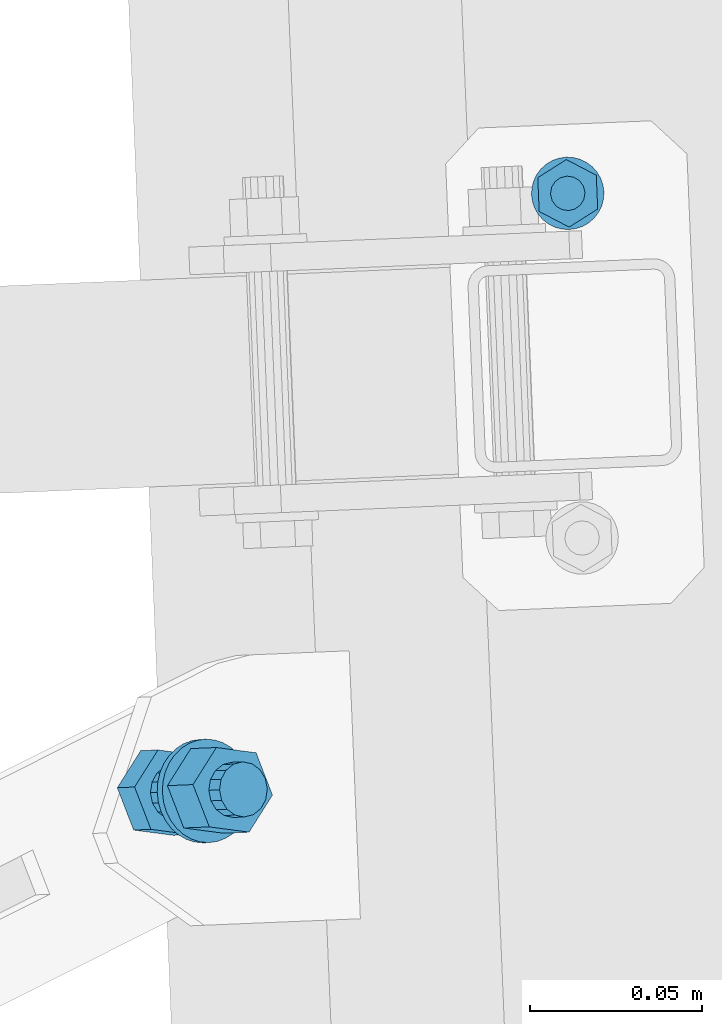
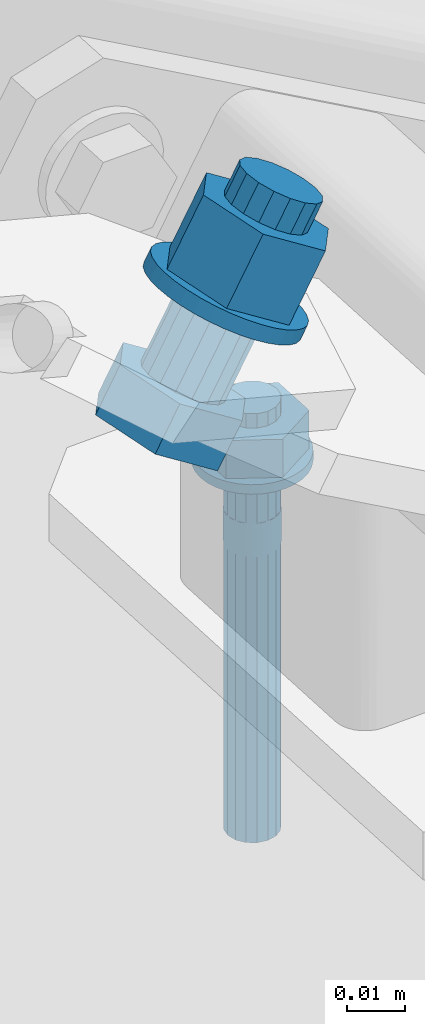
# One storey, part 220 of 288: 2 mechanical fasteners.
"""IFC2X3 building model written with IfcOpenShell, lengths in millimetres."""

import ifcopenshell
import ifcopenshell.guid

model = None  # the IFC model being written
_history = None  # IfcOwnerHistory: only IFC2X3 demands one
_inside = {}  # id of a spatial element -> (the spatial element, [elements in it])
_under = {}  # id of a project, library or spatial element -> (it, [spatial elements below it])
_declared = {}  # id of a project -> (the project, [libraries it declares])
_typed = {}  # id of a type object -> (the type object, [elements of that type])
_made_of = {}  # id of a material, layer set ... -> (it, [elements and type objects made of it])


def new_model(schema):
    """Start an empty IFC model of exactly this schema.

    Asked for "IFC4X3", IfcOpenShell would pick the latest addendum, in which some entities
    have other attributes; the version numbers below select the first issue.
    IFC2X3 requires an IfcOwnerHistory on every rooted entity: one is made here for all.
    """
    global model, _history
    if schema == "IFC4X3":
        model = ifcopenshell.file(schema_version=(4, 3, 0, 0))
    else:
        model = ifcopenshell.file(schema=schema)
    _inside.clear()
    _under.clear()
    _declared.clear()
    _typed.clear()
    _made_of.clear()
    _history = None
    if model.schema == "IFC2X3":
        org = make("IfcOrganization", Name="unknown")
        user = make(
            "IfcPersonAndOrganization",
            ThePerson=make("IfcPerson", FamilyName="unknown"),
            TheOrganization=org,
        )
        app = make(
            "IfcApplication",
            ApplicationDeveloper=org,
            Version="unknown",
            ApplicationFullName="unknown",
            ApplicationIdentifier="unknown",
        )
        _history = make(
            "IfcOwnerHistory",
            OwningUser=user,
            OwningApplication=app,
            ChangeAction="ADDED",
            CreationDate=0,
        )
    return model


def make(cls, **values):
    """One entity of the class cls with the attributes given. An attribute that is None is left unset."""
    return model.create_entity(
        cls, **{name: value for name, value in values.items() if value is not None}
    )


def entity(cls, *values):
    """Any entity or typed value of the class cls, its attributes in the order of the schema. None: left unset."""
    e = model.create_entity(cls)
    for i, value in enumerate(values):
        if value is not None:
            e[i] = value
    return e


def rooted(cls, **values):
    """An entity with a GlobalId (a new one), such as an element, a storey or a relation."""
    return make(cls, GlobalId=ifcopenshell.guid.new(), OwnerHistory=_history, **values)


def si_unit(unit_type, name, prefix=None):
    """IfcSIUnit, for example si_unit("LENGTHUNIT", "METRE", prefix="MILLI")."""
    return make("IfcSIUnit", UnitType=unit_type, Prefix=prefix, Name=name)


def converted_unit(unit_type, name, factor, base, dimensions=None, offset=None):
    """IfcConversionBasedUnit, such as the inch: factor (a typed value) times the base unit."""
    return make(
        "IfcConversionBasedUnit"
        if offset is None
        else "IfcConversionBasedUnitWithOffset",
        ConversionOffset=offset,
        Dimensions=None
        if dimensions is None
        else entity("IfcDimensionalExponents", *dimensions),
        UnitType=unit_type,
        Name=name,
        ConversionFactor=make(
            "IfcMeasureWithUnit", ValueComponent=factor, UnitComponent=base
        ),
    )


def assignment(units):
    """IfcUnitAssignment: the units of a project."""
    return None if units is None else make("IfcUnitAssignment", Units=units)


def point(xyz):
    """IfcCartesianPoint."""
    return None if xyz is None else make("IfcCartesianPoint", Coordinates=xyz)


def direction(xyz):
    """IfcDirection."""
    return None if xyz is None else make("IfcDirection", DirectionRatios=xyz)


def frame(location, z_axis=None, x_axis=None):
    """IfcAxis2Placement3D, a coordinate frame: its origin and axes. An axis left out is left unset."""
    return make(
        "IfcAxis2Placement3D",
        Location=point(location),
        Axis=direction(z_axis),
        RefDirection=direction(x_axis),
    )


def origin_with_axes():
    """The frame at (0, 0, 0) with the z axis (0, 0, 1) and the x axis (1, 0, 0) written out."""
    return frame((0.0, 0.0, 0.0), z_axis=(0.0, 0.0, 1.0), x_axis=(1.0, 0.0, 0.0))


def place(relative_to, where):
    """IfcLocalPlacement: puts the frame where relative to a parent placement (None: the world)."""
    return make(
        "IfcLocalPlacement", PlacementRelTo=relative_to, RelativePlacement=where
    )


def context(
    kind, dimensions, precision=None, world=None, true_north=None, identifier=None
):
    """IfcGeometricRepresentationContext, for example the 3D "Model" context."""
    return make(
        "IfcGeometricRepresentationContext",
        ContextIdentifier=identifier,
        ContextType=kind,
        CoordinateSpaceDimension=dimensions,
        Precision=precision,
        WorldCoordinateSystem=world,
        TrueNorth=true_north,
    )


def project(units=None, contexts=None):
    """IfcProject with its units and contexts."""
    return rooted(
        "IfcProject",
        Name="project",
        RepresentationContexts=contexts,
        UnitsInContext=assignment(units),
    )


def spatial(cls, under=None, at=None, **own):
    """A site, building, storey or space (cls), placed at a placement, below another one or the project."""
    s = rooted(cls, ObjectPlacement=at, **own)
    if under is not None:
        _under.setdefault(under.id(), (under, []))[1].append(s)
    return s


def faces_of(points, faces, orient=None, outer=None):
    """IfcFace entities. A face is a list of loops; a loop is a list of indices into points, from 0.

    orient and outer hold one flag for each loop. By default every Orientation is true, the
    first loop of a face is its IfcFaceOuterBound and the others are IfcFaceBound.
    """
    made = []
    for i, loops in enumerate(faces):
        bounds = []
        for j, loop in enumerate(loops):
            is_outer = j == 0 if outer is None else outer[i][j]
            bounds.append(
                make(
                    "IfcFaceOuterBound" if is_outer else "IfcFaceBound",
                    Bound=make("IfcPolyLoop", Polygon=[points[k] for k in loop]),
                    Orientation=True if orient is None else orient[i][j],
                )
            )
        made.append(make("IfcFace", Bounds=bounds))
    return made


def faceted_brep(points, faces, orient=None, outer=None, voids=None):
    """IfcFacetedBrep: a solid bounded by flat faces; with voids (closed shells), ...WithVoids."""
    shared = [point(p) for p in points]
    hull = make("IfcClosedShell", CfsFaces=faces_of(shared, faces, orient, outer))
    if voids is None:
        return make("IfcFacetedBrep", Outer=hull)
    return make(
        "IfcFacetedBrepWithVoids",
        Outer=hull,
        Voids=[
            make(cls, CfsFaces=faces_of(shared, fs, o, b)) for cls, fs, o, b in voids
        ],
    )


def shape(context_of_items, identifier, shape_type, items):
    """IfcShapeRepresentation: the items that make up one representation, for example the "Body"."""
    return make(
        "IfcShapeRepresentation",
        ContextOfItems=context_of_items,
        RepresentationIdentifier=identifier,
        RepresentationType=shape_type,
        Items=items,
    )


def made_of(thing, what):
    """Note that an element or type object is made of a material, layer set ...; save() writes the relation."""
    if what is not None:
        _made_of.setdefault(what.id(), (what, []))[1].append(thing)
    return thing


def element(
    cls,
    number,
    at=None,
    inside=None,
    cuts=None,
    type_object=None,
    material=None,
    context=None,
    identifier="Body",
    shape_type=None,
    held_by="IfcProductDefinitionShape",
    body=None,
    shapes=None,
    **own,
):
    """One element of the class cls, such as IfcWall. Its Tag is "e" and its number.

    at: its placement. inside: the storey or other place that contains it. cuts: it is an
    opening in that element (IfcRelVoidsElement). A single representation is given by context,
    identifier, shape_type and body (its items); several are given by shapes. held_by: the class
    of the entity that holds the representations. save() writes the other relations.
    """
    e = rooted(cls, Tag="e%d" % number, ObjectPlacement=at, **own)
    if body is not None:
        shapes = [shape(context, identifier, shape_type, body)]
    if shapes is not None:
        e.Representation = make(held_by, Representations=shapes)
    if inside is not None:
        _inside.setdefault(inside.id(), (inside, []))[1].append(e)
    if cuts is not None:
        rooted(
            "IfcRelVoidsElement", RelatingBuildingElement=cuts, RelatedOpeningElement=e
        )
    if type_object is not None:
        _typed.setdefault(type_object.id(), (type_object, []))[1].append(e)
    return made_of(e, material)


def aggregate(whole, parts):
    """IfcRelAggregates: a whole, such as a stair, and the parts it consists of."""
    return rooted("IfcRelAggregates", RelatingObject=whole, RelatedObjects=parts)


def save(model, path):
    """Write the relations noted so far, then the file.

    IfcRelAggregates (storeys below a building ...), IfcRelContainedInSpatialStructure (elements
    in a storey), IfcRelDefinesByType, IfcRelAssociatesMaterial and IfcRelDeclares: one each for
    every whole, place, type object, material and project.
    """
    for whole, parts in _under.values():
        aggregate(whole, parts)
    for where, things in _inside.values():
        rooted(
            "IfcRelContainedInSpatialStructure",
            RelatedElements=things,
            RelatingStructure=where,
        )
    for kind, things in _typed.values():
        rooted("IfcRelDefinesByType", RelatedObjects=things, RelatingType=kind)
    for what, things in _made_of.values():
        rooted("IfcRelAssociatesMaterial", RelatedObjects=things, RelatingMaterial=what)
    for by, libraries in _declared.values():
        rooted("IfcRelDeclares", RelatingContext=by, RelatedDefinitions=libraries)
    model.write(path)


model = new_model("IFC2X3")

# Units and contexts
model_context = context("Model", 3, precision=1e-09, world=origin_with_axes())
ifc_project = project(units=[si_unit("LENGTHUNIT", "METRE", prefix="MILLI"), si_unit("AREAUNIT", "SQUARE_METRE"), si_unit("VOLUMEUNIT", "CUBIC_METRE"), converted_unit("PLANEANGLEUNIT", "DEGREE", entity("IfcPlaneAngleMeasure", 0.01745329), si_unit("PLANEANGLEUNIT", "RADIAN"), dimensions=[0, 0, 0, 0, 0, 0, 0])], contexts=[model_context])

# Site, building, storey
site_placement = place(None, origin_with_axes())
site = spatial("IfcSite", under=ifc_project, at=site_placement, Name="Remont ?wietlik?w nad MC w NCPP w Opolu", CompositionType="ELEMENT")
building_placement = place(site_placement, origin_with_axes())
building = spatial("IfcBuilding", under=site, at=building_placement, Name="Konstrukcja 1", CompositionType="ELEMENT")
storey_placement = place(building_placement, origin_with_axes())
storey = spatial("IfcBuildingStorey", under=building, at=storey_placement, Name="Default Storey", CompositionType="ELEMENT", Elevation=0.0)

# Mechanical fasteners
mechanical_fastener_1_placement = place(None, origin_with_axes())
element("IfcMechanicalFastener", 1, at=mechanical_fastener_1_placement, inside=storey, ObjectType="Anchor_Bolt", NominalDiameter=10.0, NominalLength=90.0, context=model_context, shape_type="Brep", body=[
    faceted_brep([(1683.080872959, 5127.250391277, 12.000000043), (1683.080872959, 5127.250391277, 10.000000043), (1682.793931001, 5129.288652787, 10.000000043), (1682.793931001, 5129.288652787, 12.000000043), (1682.114857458, 5131.231770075, 10.000000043), (1682.114857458, 5131.231770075, 12.000000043), (1681.069748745, 5133.005070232, 10.000000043), (1681.069748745, 5133.005070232, 12.000000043), (1679.698767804, 5134.540406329, 10.000000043), (1679.698767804, 5134.540406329, 12.000000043), (1678.054600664, 5135.778776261, 10.000000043), (1678.054600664, 5135.778776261, 12.000000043), (1676.200431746, 5136.672590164, 10.000000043), (1676.200431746, 5136.672590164, 12.000000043), (1674.207515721, 5137.187499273, 10.000000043), (1674.207515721, 5137.187499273, 12.000000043), (1672.152439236, 5137.303715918, 10.000000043), (1672.152439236, 5137.303715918, 12.000000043), (1670.114177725, 5137.01677396, 10.000000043), (1670.114177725, 5137.01677396, 12.000000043), (1668.171060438, 5136.337700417, 10.000000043), (1668.171060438, 5136.337700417, 12.000000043), (1666.39776028, 5135.292591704, 10.000000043), (1666.39776028, 5135.292591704, 12.000000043), (1664.862424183, 5133.921610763, 10.000000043), (1664.862424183, 5133.921610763, 12.000000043), (1663.624054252, 5132.277443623, 10.000000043), (1663.624054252, 5132.277443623, 12.000000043), (1662.730240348, 5130.423274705, 10.000000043), (1662.730240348, 5130.423274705, 12.000000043), (1662.21533124, 5128.43035868, 10.000000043), (1662.21533124, 5128.43035868, 12.000000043), (1662.099114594, 5126.375282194, 10.000000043), (1662.099114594, 5126.375282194, 12.000000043), (1662.386056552, 5124.337020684, 10.000000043), (1662.386056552, 5124.337020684, 12.000000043), (1663.065130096, 5122.393903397, 10.000000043), (1663.065130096, 5122.393903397, 12.000000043), (1664.110238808, 5120.620603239, 10.000000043), (1664.110238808, 5120.620603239, 12.000000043), (1665.481219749, 5119.085267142, 10.000000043), (1665.481219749, 5119.085267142, 12.000000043), (1667.125386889, 5117.846897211, 10.000000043), (1667.125386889, 5117.846897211, 12.000000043), (1668.979555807, 5116.953083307, 10.000000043), (1668.979555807, 5116.953083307, 12.000000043), (1670.972471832, 5116.438174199, 10.000000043), (1670.972471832, 5116.438174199, 12.000000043), (1673.027548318, 5116.321957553, 10.000000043), (1673.027548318, 5116.321957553, 12.000000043), (1675.065809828, 5116.608899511, 10.000000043), (1675.065809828, 5116.608899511, 12.000000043), (1677.008927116, 5117.287973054, 10.000000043), (1677.008927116, 5117.287973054, 12.000000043), (1678.782227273, 5118.333081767, 10.000000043), (1678.782227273, 5118.333081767, 12.000000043), (1680.31756337, 5119.704062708, 10.000000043), (1680.31756337, 5119.704062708, 12.000000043), (1681.555933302, 5121.348229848, 10.000000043), (1681.555933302, 5121.348229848, 12.000000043), (1682.449747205, 5123.202398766, 10.000000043), (1682.449747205, 5123.202398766, 12.000000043), (1682.964656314, 5125.195314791, 10.000000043), (1682.964656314, 5125.195314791, 12.000000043)], [[[0, 1, 2, 3]], [[3, 2, 4, 5]], [[5, 4, 6, 7]], [[7, 6, 8, 9]], [[9, 8, 10, 11]], [[11, 10, 12, 13]], [[13, 12, 14, 15]], [[15, 14, 16, 17]], [[17, 16, 18, 19]], [[19, 18, 20, 21]], [[21, 20, 22, 23]], [[23, 22, 24, 25]], [[25, 24, 26, 27]], [[27, 26, 28, 29]], [[29, 28, 30, 31]], [[31, 30, 32, 33]], [[33, 32, 34, 35]], [[35, 34, 36, 37]], [[37, 36, 38, 39]], [[39, 38, 40, 41]], [[41, 40, 42, 43]], [[43, 42, 44, 45]], [[45, 44, 46, 47]], [[47, 46, 48, 49]], [[49, 48, 50, 51]], [[51, 50, 52, 53]], [[53, 52, 54, 55]], [[55, 54, 56, 57]], [[57, 56, 58, 59]], [[59, 58, 60, 61]], [[61, 60, 62, 63]], [[63, 62, 1, 0]], [[0, 3, 5, 7, 9, 11, 13, 15, 17, 19, 21, 23, 25, 27, 29, 31, 33, 35, 37, 39, 41, 43, 45, 47, 49, 51, 53, 55, 57, 59, 61, 63]], [[1, 62, 60, 58, 56, 54, 52, 50, 48, 46, 44, 42, 40, 38, 36, 34, 32, 30, 28, 26, 24, 22, 20, 18, 16, 14, 12, 10, 8, 6, 4, 2]]]),
    faceted_brep([(1663.906124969, 5131.354909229, 12.000000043), (1663.906124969, 5131.354909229, 20.000000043), (1672.181609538, 5136.604323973, 20.000000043), (1672.181609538, 5136.604323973, 12.000000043), (1680.865478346, 5132.062251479, 20.000000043), (1680.865478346, 5132.062251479, 12.000000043), (1681.273862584, 5122.270764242, 20.000000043), (1681.273862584, 5122.270764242, 12.000000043), (1672.998378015, 5117.021349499, 20.000000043), (1672.998378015, 5117.021349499, 12.000000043), (1664.314509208, 5121.563421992, 20.000000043), (1664.314509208, 5121.563421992, 12.000000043)], [[[0, 1, 2, 3]], [[3, 2, 4, 5]], [[5, 4, 6, 7]], [[7, 6, 8, 9]], [[9, 8, 10, 11]], [[11, 10, 1, 0]], [[4, 2, 1, 10, 8, 6]], [[0, 3, 5, 7, 9, 11]]]),
    faceted_brep([(1677.58565053, 5127.021196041, 23.000000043), (1677.58565053, 5127.021196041, 20.000000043), (1677.125643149, 5128.917090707, 20.000000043), (1677.125643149, 5128.917090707, 23.000000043), (1675.975124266, 5130.49263178, 20.000000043), (1675.975124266, 5130.49263178, 23.000000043), (1674.309249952, 5131.507957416, 20.000000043), (1674.309249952, 5131.507957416, 23.000000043), (1672.381634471, 5131.808493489, 20.000000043), (1672.381634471, 5131.808493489, 23.000000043), (1670.485739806, 5131.348486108, 20.000000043), (1670.485739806, 5131.348486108, 23.000000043), (1668.910198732, 5130.197967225, 20.000000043), (1668.910198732, 5130.197967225, 23.000000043), (1667.894873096, 5128.532092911, 20.000000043), (1667.894873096, 5128.532092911, 23.000000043), (1667.594337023, 5126.60447743, 20.000000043), (1667.594337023, 5126.60447743, 23.000000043), (1668.054344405, 5124.708582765, 20.000000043), (1668.054344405, 5124.708582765, 23.000000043), (1669.204863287, 5123.133041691, 20.000000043), (1669.204863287, 5123.133041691, 23.000000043), (1670.870737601, 5122.117716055, 20.000000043), (1670.870737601, 5122.117716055, 23.000000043), (1672.798353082, 5121.817179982, 20.000000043), (1672.798353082, 5121.817179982, 23.000000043), (1674.694247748, 5122.277187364, 20.000000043), (1674.694247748, 5122.277187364, 23.000000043), (1676.269788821, 5123.427706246, 20.000000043), (1676.269788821, 5123.427706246, 23.000000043), (1677.285114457, 5125.09358056, 20.000000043), (1677.285114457, 5125.09358056, 23.000000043)], [[[0, 1, 2, 3]], [[3, 2, 4, 5]], [[5, 4, 6, 7]], [[7, 6, 8, 9]], [[9, 8, 10, 11]], [[11, 10, 12, 13]], [[13, 12, 14, 15]], [[15, 14, 16, 17]], [[17, 16, 18, 19]], [[19, 18, 20, 21]], [[21, 20, 22, 23]], [[23, 22, 24, 25]], [[25, 24, 26, 27]], [[27, 26, 28, 29]], [[29, 28, 30, 31]], [[31, 30, 1, 0]], [[0, 3, 5, 7, 9, 11, 13, 15, 17, 19, 21, 23, 25, 27, 29, 31]], [[1, 30, 28, 26, 24, 22, 20, 18, 16, 14, 12, 10, 8, 6, 4, 2]]]),
    faceted_brep([(1677.58565053, 5127.021196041, 10.000000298), (1677.58565053, 5127.021196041, 4.3e-08), (1677.125643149, 5128.917090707, 4.3e-08), (1677.125643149, 5128.917090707, 10.000000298), (1675.975124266, 5130.49263178, 4.3e-08), (1675.975124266, 5130.49263178, 10.000000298), (1674.309249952, 5131.507957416, 4.3e-08), (1674.309249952, 5131.507957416, 10.000000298), (1672.381634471, 5131.808493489, 4.3e-08), (1672.381634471, 5131.808493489, 10.000000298), (1670.485739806, 5131.348486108, 4.3e-08), (1670.485739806, 5131.348486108, 10.000000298), (1668.910198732, 5130.197967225, 4.3e-08), (1668.910198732, 5130.197967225, 10.000000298), (1667.894873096, 5128.532092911, 4.3e-08), (1667.894873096, 5128.532092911, 10.000000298), (1667.594337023, 5126.60447743, 4.3e-08), (1667.594337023, 5126.60447743, 10.000000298), (1668.054344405, 5124.708582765, 4.3e-08), (1668.054344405, 5124.708582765, 10.000000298), (1669.204863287, 5123.133041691, 4.3e-08), (1669.204863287, 5123.133041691, 10.000000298), (1670.870737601, 5122.117716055, 4.3e-08), (1670.870737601, 5122.117716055, 10.000000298), (1672.798353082, 5121.817179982, 4.3e-08), (1672.798353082, 5121.817179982, 10.000000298), (1674.694247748, 5122.277187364, 4.3e-08), (1674.694247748, 5122.277187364, 10.000000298), (1676.269788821, 5123.427706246, 4.3e-08), (1676.269788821, 5123.427706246, 10.000000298), (1677.285114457, 5125.09358056, 4.3e-08), (1677.285114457, 5125.09358056, 10.000000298)], [[[0, 1, 2, 3]], [[3, 2, 4, 5]], [[5, 4, 6, 7]], [[7, 6, 8, 9]], [[9, 8, 10, 11]], [[11, 10, 12, 13]], [[13, 12, 14, 15]], [[15, 14, 16, 17]], [[17, 16, 18, 19]], [[19, 18, 20, 21]], [[21, 20, 22, 23]], [[23, 22, 24, 25]], [[25, 24, 26, 27]], [[27, 26, 28, 29]], [[29, 28, 30, 31]], [[31, 30, 1, 0]], [[0, 3, 5, 7, 9, 11, 13, 15, 17, 19, 21, 23, 25, 27, 29, 31]], [[1, 30, 28, 26, 24, 22, 20, 18, 16, 14, 12, 10, 8, 6, 4, 2]]]),
    faceted_brep([(1677.58565053, 5127.021196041, -2.13e-07), (1677.58565053, 5127.021196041, -6.999999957), (1677.449011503, 5127.99179676, -6.999999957), (1677.449011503, 5127.99179676, -2.13e-07), (1677.125643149, 5128.917090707, -6.999999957), (1677.125643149, 5128.917090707, -2.13e-07), (1676.627972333, 5129.761519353, -6.999999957), (1676.627972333, 5129.761519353, -2.13e-07), (1675.975124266, 5130.49263178, -6.999999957), (1675.975124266, 5130.49263178, -2.13e-07), (1675.192187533, 5131.082331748, -6.999999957), (1675.192187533, 5131.082331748, -2.13e-07), (1674.309249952, 5131.507957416, -6.999999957), (1674.309249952, 5131.507957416, -2.13e-07), (1673.360242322, 5131.753152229, -6.999999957), (1673.360242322, 5131.753152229, -2.13e-07), (1672.381634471, 5131.808493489, -6.999999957), (1672.381634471, 5131.808493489, -2.13e-07), (1671.411033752, 5131.671854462, -6.999999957), (1671.411033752, 5131.671854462, -2.13e-07), (1670.485739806, 5131.348486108, -6.999999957), (1670.485739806, 5131.348486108, -2.13e-07), (1669.641311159, 5130.850815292, -6.999999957), (1669.641311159, 5130.850815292, -2.13e-07), (1668.910198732, 5130.197967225, -6.999999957), (1668.910198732, 5130.197967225, -2.13e-07), (1668.320498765, 5129.415030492, -6.999999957), (1668.320498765, 5129.415030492, -2.13e-07), (1667.894873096, 5128.532092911, -6.999999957), (1667.894873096, 5128.532092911, -2.13e-07), (1667.649678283, 5127.583085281, -6.999999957), (1667.649678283, 5127.583085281, -2.13e-07), (1667.594337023, 5126.60447743, -6.999999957), (1667.594337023, 5126.60447743, -2.13e-07), (1667.730976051, 5125.633876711, -6.999999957), (1667.730976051, 5125.633876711, -2.13e-07), (1668.054344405, 5124.708582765, -6.999999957), (1668.054344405, 5124.708582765, -2.13e-07), (1668.55201522, 5123.864154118, -6.999999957), (1668.55201522, 5123.864154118, -2.13e-07), (1669.204863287, 5123.133041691, -6.999999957), (1669.204863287, 5123.133041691, -2.13e-07), (1669.987800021, 5122.543341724, -6.999999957), (1669.987800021, 5122.543341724, -2.13e-07), (1670.870737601, 5122.117716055, -6.999999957), (1670.870737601, 5122.117716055, -2.13e-07), (1671.819745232, 5121.872521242, -6.999999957), (1671.819745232, 5121.872521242, -2.13e-07), (1672.798353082, 5121.817179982, -6.999999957), (1672.798353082, 5121.817179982, -2.13e-07), (1673.768953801, 5121.95381901, -6.999999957), (1673.768953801, 5121.95381901, -2.13e-07), (1674.694247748, 5122.277187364, -6.999999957), (1674.694247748, 5122.277187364, -2.13e-07), (1675.538676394, 5122.774858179, -6.999999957), (1675.538676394, 5122.774858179, -2.13e-07), (1676.269788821, 5123.427706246, -6.999999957), (1676.269788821, 5123.427706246, -2.13e-07), (1676.859488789, 5124.21064298, -6.999999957), (1676.859488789, 5124.21064298, -2.13e-07), (1677.285114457, 5125.09358056, -6.999999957), (1677.285114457, 5125.09358056, -2.13e-07), (1677.530309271, 5126.042588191, -6.999999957), (1677.530309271, 5126.042588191, -2.13e-07)], [[[0, 1, 2, 3]], [[3, 2, 4, 5]], [[5, 4, 6, 7]], [[7, 6, 8, 9]], [[9, 8, 10, 11]], [[11, 10, 12, 13]], [[13, 12, 14, 15]], [[15, 14, 16, 17]], [[17, 16, 18, 19]], [[19, 18, 20, 21]], [[21, 20, 22, 23]], [[23, 22, 24, 25]], [[25, 24, 26, 27]], [[27, 26, 28, 29]], [[29, 28, 30, 31]], [[31, 30, 32, 33]], [[33, 32, 34, 35]], [[35, 34, 36, 37]], [[37, 36, 38, 39]], [[39, 38, 40, 41]], [[41, 40, 42, 43]], [[43, 42, 44, 45]], [[45, 44, 46, 47]], [[47, 46, 48, 49]], [[49, 48, 50, 51]], [[51, 50, 52, 53]], [[53, 52, 54, 55]], [[55, 54, 56, 57]], [[57, 56, 58, 59]], [[59, 58, 60, 61]], [[61, 60, 62, 63]], [[63, 62, 1, 0]], [[0, 3, 5, 7, 9, 11, 13, 15, 17, 19, 21, 23, 25, 27, 29, 31, 33, 35, 37, 39, 41, 43, 45, 47, 49, 51, 53, 55, 57, 59, 61, 63]], [[1, 62, 60, 58, 56, 54, 52, 50, 48, 46, 44, 42, 40, 38, 36, 34, 32, 30, 28, 26, 24, 22, 20, 18, 16, 14, 12, 10, 8, 6, 4, 2]]]),
    faceted_brep([(1677.58565053, 5127.021196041, -6.999999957), (1677.58565053, 5127.021196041, -66.999999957), (1677.125643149, 5128.917090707, -66.999999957), (1677.125643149, 5128.917090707, -6.999999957), (1675.975124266, 5130.49263178, -66.999999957), (1675.975124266, 5130.49263178, -6.999999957), (1674.309249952, 5131.507957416, -66.999999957), (1674.309249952, 5131.507957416, -6.999999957), (1672.381634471, 5131.808493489, -66.999999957), (1672.381634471, 5131.808493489, -6.999999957), (1670.485739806, 5131.348486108, -66.999999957), (1670.485739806, 5131.348486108, -6.999999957), (1668.910198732, 5130.197967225, -66.999999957), (1668.910198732, 5130.197967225, -6.999999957), (1667.894873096, 5128.532092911, -66.999999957), (1667.894873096, 5128.532092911, -6.999999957), (1667.594337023, 5126.60447743, -66.999999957), (1667.594337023, 5126.60447743, -6.999999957), (1668.054344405, 5124.708582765, -66.999999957), (1668.054344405, 5124.708582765, -6.999999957), (1669.204863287, 5123.133041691, -66.999999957), (1669.204863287, 5123.133041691, -6.999999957), (1670.870737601, 5122.117716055, -66.999999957), (1670.870737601, 5122.117716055, -6.999999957), (1672.798353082, 5121.817179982, -66.999999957), (1672.798353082, 5121.817179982, -6.999999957), (1674.694247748, 5122.277187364, -66.999999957), (1674.694247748, 5122.277187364, -6.999999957), (1676.269788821, 5123.427706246, -66.999999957), (1676.269788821, 5123.427706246, -6.999999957), (1677.285114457, 5125.09358056, -66.999999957), (1677.285114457, 5125.09358056, -6.999999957)], [[[0, 1, 2, 3]], [[3, 2, 4, 5]], [[5, 4, 6, 7]], [[7, 6, 8, 9]], [[9, 8, 10, 11]], [[11, 10, 12, 13]], [[13, 12, 14, 15]], [[15, 14, 16, 17]], [[17, 16, 18, 19]], [[19, 18, 20, 21]], [[21, 20, 22, 23]], [[23, 22, 24, 25]], [[25, 24, 26, 27]], [[27, 26, 28, 29]], [[29, 28, 30, 31]], [[31, 30, 1, 0]], [[0, 3, 5, 7, 9, 11, 13, 15, 17, 19, 21, 23, 25, 27, 29, 31]], [[1, 30, 28, 26, 24, 22, 20, 18, 16, 14, 12, 10, 8, 6, 4, 2]]]),
])
mechanical_fastener_2_placement = place(None, origin_with_axes())
element("IfcMechanicalFastener", 2, at=mechanical_fastener_2_placement, inside=storey, ObjectType="Bolt#1", NominalDiameter=16.0, NominalLength=40.0, context=model_context, shape_type="Brep", body=[
    faceted_brep([(1551.769753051, 4942.448517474, 175.710960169), (1546.762082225, 4942.239857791, 167.057654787), (1558.278970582, 4940.716625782, 160.429557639), (1563.286641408, 4940.925285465, 169.082863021), (1565.059149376, 4951.4601989, 156.2468029), (1570.066820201, 4951.668858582, 164.900108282), (1560.322439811, 4963.727004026, 158.69214531), (1565.330110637, 4963.935663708, 167.345450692), (1548.805551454, 4965.250236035, 165.320242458), (1553.813222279, 4965.458895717, 173.97354784), (1542.02537266, 4954.506662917, 169.502997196), (1547.033043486, 4954.7153226, 178.156302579)], [[[0, 1, 2, 3]], [[3, 2, 4, 5]], [[5, 4, 6, 7]], [[7, 6, 8, 9]], [[9, 8, 10, 11]], [[11, 10, 1, 0]], [[4, 2, 1, 10, 8, 6]], [[0, 3, 5, 7, 9, 11]]]),
    faceted_brep([(1564.868476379, 4956.376160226, 167.794883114), (1572.8807497, 4956.710015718, 181.640171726), (1573.483987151, 4953.659835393, 181.364627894), (1565.47171383, 4953.325979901, 167.519339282), (1573.03344604, 4950.589271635, 181.699397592), (1565.021172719, 4950.255416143, 167.854108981), (1571.597717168, 4947.96578994, 182.59351517), (1563.585443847, 4947.631934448, 168.748226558), (1569.395377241, 4946.188791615, 183.91085933), (1561.38310392, 4945.854936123, 170.065570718), (1566.761712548, 4945.528808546, 185.450876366), (1558.749439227, 4945.194953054, 171.605587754), (1564.097674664, 4946.086317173, 186.979112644), (1556.085401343, 4945.752461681, 173.133824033), (1561.808839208, 4947.776441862, 188.262908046), (1553.796565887, 4947.44258637, 174.417619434), (1560.24366063, 4950.341876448, 189.106816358), (1552.231387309, 4950.008020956, 175.261527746), (1559.640423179, 4953.392056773, 189.38236019), (1551.628149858, 4953.058201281, 175.537071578), (1560.09096429, 4956.462620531, 189.047590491), (1552.078690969, 4956.128765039, 175.20230188), (1561.526693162, 4959.086102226, 188.153472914), (1553.51441984, 4958.752246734, 174.308184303), (1563.729033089, 4960.863100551, 186.836128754), (1555.716759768, 4960.529245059, 172.990840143), (1566.362697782, 4961.52308362, 185.296111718), (1558.350424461, 4961.189228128, 171.450823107), (1569.026735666, 4960.965574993, 183.767875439), (1561.014462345, 4960.631719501, 169.922586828), (1571.315571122, 4959.275450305, 182.484080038), (1563.303297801, 4958.941594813, 168.638791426)], [[[0, 1, 2, 3]], [[3, 2, 4, 5]], [[5, 4, 6, 7]], [[7, 6, 8, 9]], [[9, 8, 10, 11]], [[11, 10, 12, 13]], [[13, 12, 14, 15]], [[15, 14, 16, 17]], [[17, 16, 18, 19]], [[19, 18, 20, 21]], [[21, 20, 22, 23]], [[23, 22, 24, 25]], [[25, 24, 26, 27]], [[27, 26, 28, 29]], [[29, 28, 30, 31]], [[31, 30, 1, 0]], [[0, 3, 5, 7, 9, 11, 13, 15, 17, 19, 21, 23, 25, 27, 29, 31]], [[1, 30, 28, 26, 24, 22, 20, 18, 16, 14, 12, 10, 8, 6, 4, 2]]]),
    faceted_brep([(1578.409476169, 4959.496076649, 178.373514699), (1579.911777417, 4959.558674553, 180.969506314), (1580.720493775, 4956.760070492, 180.568985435), (1579.218192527, 4956.697472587, 177.97299382), (1581.042847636, 4953.839586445, 180.452861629), (1579.540546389, 4953.77698854, 177.856870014), (1580.866451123, 4950.909454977, 180.625597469), (1579.364149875, 4950.846857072, 178.029605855), (1580.198083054, 4948.082279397, 181.080554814), (1578.695781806, 4948.019681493, 178.484563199), (1579.063428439, 4945.466706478, 181.800249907), (1577.561127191, 4945.404108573, 179.204258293), (1577.506091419, 4943.16325122, 182.757025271), (1576.003790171, 4943.100653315, 180.161033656), (1575.585919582, 4941.260434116, 183.914112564), (1574.083618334, 4941.197836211, 181.31812095), (1573.376704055, 4939.83137936, 185.227045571), (1571.874402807, 4939.768781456, 182.631053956), (1570.963343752, 4938.931004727, 186.645369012), (1569.461042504, 4938.868406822, 184.049377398), (1568.438582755, 4938.593911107, 188.114577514), (1566.936281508, 4938.531313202, 185.518585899), (1565.899446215, 4938.833052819, 189.578210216), (1564.397144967, 4938.770454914, 186.982218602), (1563.443511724, 4939.639239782, 190.980020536), (1561.941210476, 4939.576641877, 188.384028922), (1561.165159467, 4940.981490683, 192.266137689), (1559.662858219, 4940.918892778, 189.670146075), (1559.151945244, 4942.808223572, 193.387136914), (1557.649643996, 4942.745625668, 190.791145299), (1557.481235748, 4945.04923813, 194.299938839), (1555.9789345, 4944.986640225, 191.703947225), (1556.217235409, 4947.618413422, 194.969464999), (1554.714934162, 4947.555815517, 192.373473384), (1555.408519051, 4950.417017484, 195.369985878), (1553.906217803, 4950.354419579, 192.773994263), (1555.086165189, 4953.337501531, 195.486109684), (1553.583863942, 4953.274903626, 192.890118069), (1555.262561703, 4956.267632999, 195.313373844), (1553.760260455, 4956.205035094, 192.717382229), (1555.930929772, 4959.094808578, 194.858416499), (1554.428628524, 4959.032210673, 192.262424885), (1557.065584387, 4961.710381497, 194.138721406), (1555.563283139, 4961.647783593, 191.542729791), (1558.622921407, 4964.013836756, 193.181946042), (1557.120620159, 4963.951238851, 190.585954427), (1560.543093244, 4965.91665386, 192.024858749), (1559.040791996, 4965.854055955, 189.428867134), (1562.752308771, 4967.345708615, 190.711925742), (1561.250007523, 4967.28311071, 188.115934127), (1565.165669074, 4968.246083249, 189.293602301), (1563.663367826, 4968.183485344, 186.697610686), (1567.69043007, 4968.583176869, 187.824393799), (1566.188128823, 4968.520578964, 185.228402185), (1570.229566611, 4968.344035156, 186.360761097), (1568.727265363, 4968.281437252, 183.764769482), (1572.685501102, 4967.537848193, 184.958950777), (1571.183199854, 4967.475250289, 182.362959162), (1574.963853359, 4966.195597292, 183.672833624), (1573.461552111, 4966.132999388, 181.076842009), (1576.977067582, 4964.368864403, 182.551834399), (1575.474766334, 4964.306266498, 179.955842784), (1578.647777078, 4962.127849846, 181.639032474), (1577.14547583, 4962.065251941, 179.043040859)], [[[0, 1, 2, 3]], [[3, 2, 4, 5]], [[5, 4, 6, 7]], [[7, 6, 8, 9]], [[9, 8, 10, 11]], [[11, 10, 12, 13]], [[13, 12, 14, 15]], [[15, 14, 16, 17]], [[17, 16, 18, 19]], [[19, 18, 20, 21]], [[21, 20, 22, 23]], [[23, 22, 24, 25]], [[25, 24, 26, 27]], [[27, 26, 28, 29]], [[29, 28, 30, 31]], [[31, 30, 32, 33]], [[33, 32, 34, 35]], [[35, 34, 36, 37]], [[37, 36, 38, 39]], [[39, 38, 40, 41]], [[41, 40, 42, 43]], [[43, 42, 44, 45]], [[45, 44, 46, 47]], [[47, 46, 48, 49]], [[49, 48, 50, 51]], [[51, 50, 52, 53]], [[53, 52, 54, 55]], [[55, 54, 56, 57]], [[57, 56, 58, 59]], [[59, 58, 60, 61]], [[61, 60, 62, 63]], [[63, 62, 1, 0]], [[0, 3, 5, 7, 9, 11, 13, 15, 17, 19, 21, 23, 25, 27, 29, 31, 33, 35, 37, 39, 41, 43, 45, 47, 49, 51, 53, 55, 57, 59, 61, 63]], [[1, 62, 60, 58, 56, 54, 52, 50, 48, 46, 44, 42, 40, 38, 36, 34, 32, 30, 28, 26, 24, 22, 20, 18, 16, 14, 12, 10, 8, 6, 4, 2]]]),
    faceted_brep([(1568.695680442, 4943.1537872, 204.959132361), (1561.28432762, 4942.84497087, 192.152240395), (1572.801215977, 4941.321738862, 185.524143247), (1580.2125688, 4941.630555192, 198.331035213), (1579.581394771, 4952.065311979, 181.341388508), (1586.992747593, 4952.374128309, 194.148280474), (1574.844685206, 4964.332117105, 183.786730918), (1582.256038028, 4964.640933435, 196.593622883), (1563.327796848, 4965.855349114, 190.414828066), (1570.739149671, 4966.164165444, 203.221720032), (1556.547618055, 4955.111775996, 194.597582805), (1563.958970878, 4955.420592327, 207.40447477)], [[[0, 1, 2, 3]], [[3, 2, 4, 5]], [[5, 4, 6, 7]], [[7, 6, 8, 9]], [[9, 8, 10, 11]], [[11, 10, 1, 0]], [[4, 2, 1, 10, 8, 6]], [[0, 3, 5, 7, 9, 11]]]),
    faceted_brep([(1581.79440377, 4957.081429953, 197.043055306), (1584.899159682, 4957.210798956, 202.408104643), (1585.502397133, 4954.160618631, 202.132560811), (1582.397641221, 4954.031249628, 196.767511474), (1585.051856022, 4951.090054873, 202.46733051), (1581.94710011, 4950.96068587, 197.102281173), (1583.616127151, 4948.466573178, 203.361448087), (1580.511371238, 4948.337204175, 197.99639875), (1581.413787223, 4946.689574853, 204.678792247), (1578.309031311, 4946.56020585, 199.31374291), (1578.78012253, 4946.029591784, 206.218809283), (1575.675366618, 4945.900222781, 200.853759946), (1576.116084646, 4946.587100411, 207.747045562), (1573.011328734, 4946.457731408, 202.381996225), (1573.82724919, 4948.277225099, 209.030840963), (1570.722493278, 4948.147856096, 203.665791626), (1572.262070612, 4950.842659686, 209.874749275), (1569.1573147, 4950.713290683, 204.509699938), (1571.658833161, 4953.892840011, 210.150293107), (1568.554077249, 4953.763471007, 204.78524377), (1572.109374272, 4956.963403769, 209.815523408), (1569.00461836, 4956.834034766, 204.450474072), (1573.545103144, 4959.586885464, 208.921405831), (1570.440347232, 4959.457516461, 203.556356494), (1575.747443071, 4961.363883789, 207.604061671), (1572.642687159, 4961.234514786, 202.239012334), (1578.381107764, 4962.023866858, 206.064044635), (1575.276351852, 4961.894497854, 200.698995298), (1581.045145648, 4961.466358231, 204.535808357), (1577.940389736, 4961.336989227, 199.17075902), (1583.333981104, 4959.776233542, 203.252012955), (1580.229225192, 4959.646864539, 197.886963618)], [[[0, 1, 2, 3]], [[3, 2, 4, 5]], [[5, 4, 6, 7]], [[7, 6, 8, 9]], [[9, 8, 10, 11]], [[11, 10, 12, 13]], [[13, 12, 14, 15]], [[15, 14, 16, 17]], [[17, 16, 18, 19]], [[19, 18, 20, 21]], [[21, 20, 22, 23]], [[23, 22, 24, 25]], [[25, 24, 26, 27]], [[27, 26, 28, 29]], [[29, 28, 30, 31]], [[31, 30, 1, 0]], [[0, 3, 5, 7, 9, 11, 13, 15, 17, 19, 21, 23, 25, 27, 29, 31]], [[1, 30, 28, 26, 24, 22, 20, 18, 16, 14, 12, 10, 8, 6, 4, 2]]]),
])

save(model, "model.ifc")
